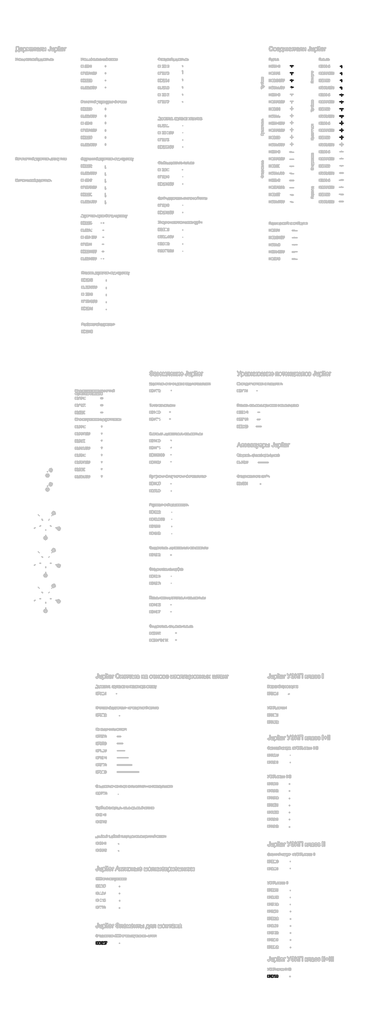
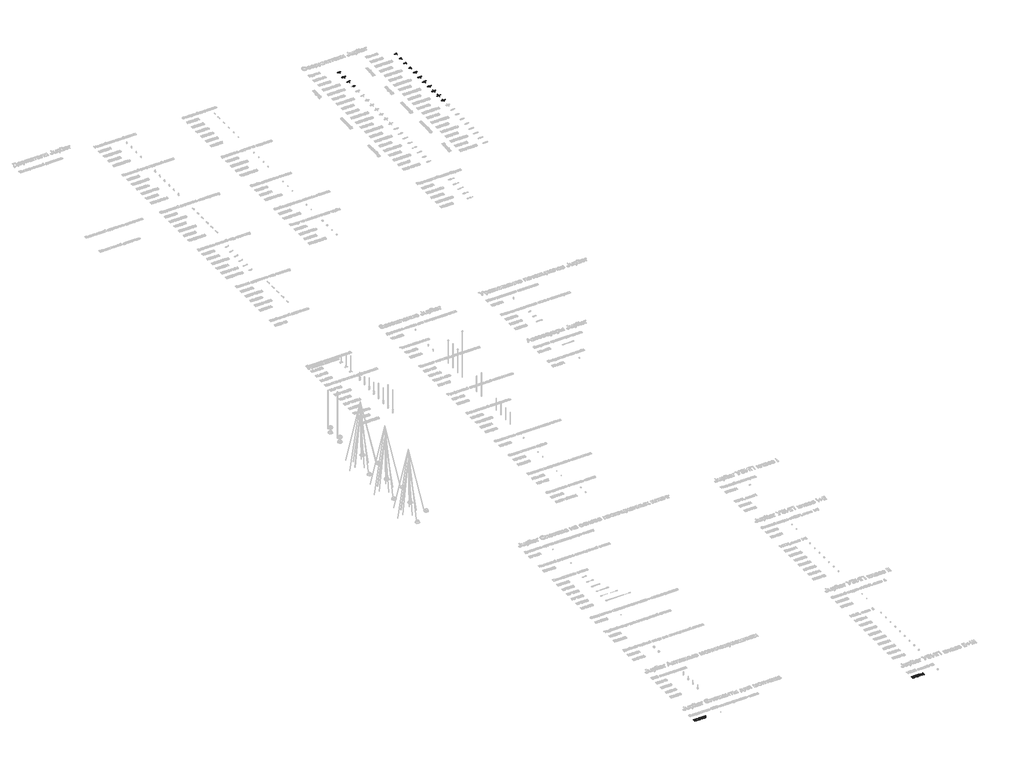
# One storey, part 6 of 124: 42 duct segments, 17 proxies, 11 duct fittings.
"""IFC4 building model written with IfcOpenShell, lengths in millimetres."""

from ifc_helpers import new_model, si_unit, point, frame, frame_2d, origin, origin_with_axes, place, context, project, spatial, polyline, circle_curve, trimmed, segment, composite_curve, outline, extrude, transform, mapped, element, save
from components import security_devices_68ae9aea, security_devices_21ef5ac7, security_devices_afe2594a, duct_fitting_43ad5567, duct_fitting_6c424e49, duct_fitting_1aa216ad, duct_fitting_7b14a912, duct_fitting_7ecd3d40

model = new_model("IFC4")

# Units and contexts
model_context = context("Model", 3, world=origin())
ifc_project = project(units=[si_unit("LENGTHUNIT", "METRE", prefix="MILLI")], contexts=[model_context])

# Site, building, storey
site = spatial("IfcSite", under=ifc_project)
building = spatial("IfcBuilding", under=site)
storey = spatial("IfcBuildingStorey", under=building, Name="Этаж 01", Elevation=0.0)

# Proxies
placement = place(None, origin())
security_devices_shape = security_devices_68ae9aea(model_context)
element("IfcBuildingElementProxy", 1, Name="КНС_СоединительПолосаПолоса_DKC : NG3105_Горячеоцинкованная сталь_80х70 мм", ObjectType="КНС_СоединительПолосаПолоса_DKC : NG3105_Горячеоцинкованная сталь_80х70 мм", at=placement, inside=storey, context=model_context, shape_type="MappedRepresentation", body=[
    mapped(security_devices_shape, transform((59863.3070748, -5351.033182, 0.0), x_axis=(0.0, 1.0, 0.0), y_axis=(-1.0, 0.0, 0.0), z_axis=(0.0, 0.0, 1.0))),
])
element("IfcBuildingElementProxy", 2, Name="КНС_СоединительПолосаПолоса_DKC : NG3105_Горячеоцинкованная сталь_80х70 мм", ObjectType="КНС_СоединительПолосаПолоса_DKC : NG3105_Горячеоцинкованная сталь_80х70 мм", at=placement, inside=storey, context=model_context, shape_type="MappedRepresentation", body=[
    mapped(security_devices_shape, transform((59863.3070748, -9351.033182, 0.0), x_axis=(1.0, 0.0, 0.0), y_axis=(0.0, 1.0, 0.0), z_axis=(0.0, 0.0, 1.0))),
])
element("IfcBuildingElementProxy", 3, Name="КНС_СоединительПолосаПолоса_DKC : NG3105_Горячеоцинкованная сталь_80х70 мм", ObjectType="КНС_СоединительПолосаПолоса_DKC : NG3105_Горячеоцинкованная сталь_80х70 мм", at=placement, inside=storey, context=model_context, shape_type="MappedRepresentation", body=[
    mapped(security_devices_shape, transform((59863.3070748, -13351.033182, 0.0), x_axis=(1.0, 0.0, 0.0), y_axis=(0.0, 1.0, 0.0), z_axis=(0.0, 0.0, 1.0))),
])
element("IfcBuildingElementProxy", 4, Name="КНС_СоединительПолосаПолоса_DKC : NG3105CU_Медь_80х70 мм", ObjectType="КНС_СоединительПолосаПолоса_DKC : NG3105CU_Медь_80х70 мм", at=placement, inside=storey, context=model_context, shape_type="MappedRepresentation", body=[
    mapped(security_devices_shape, transform((59863.3070748, -6351.033182, 0.0), x_axis=(0.0, 1.0, 0.0), y_axis=(-1.0, 0.0, 0.0), z_axis=(0.0, 0.0, 1.0))),
])
element("IfcBuildingElementProxy", 5, Name="КНС_СоединительПолосаПолоса_DKC : NG3105CU_Медь_80х70 мм", ObjectType="КНС_СоединительПолосаПолоса_DKC : NG3105CU_Медь_80х70 мм", at=placement, inside=storey, context=model_context, shape_type="MappedRepresentation", body=[
    mapped(security_devices_shape, transform((59863.3070748, -10351.033182, 0.0), x_axis=(1.0, 0.0, 0.0), y_axis=(0.0, 1.0, 0.0), z_axis=(0.0, 0.0, 1.0))),
])
element("IfcBuildingElementProxy", 6, Name="КНС_СоединительПолосаПолоса_DKC : NG3105CU_Медь_80х70 мм", ObjectType="КНС_СоединительПолосаПолоса_DKC : NG3105CU_Медь_80х70 мм", at=placement, inside=storey, context=model_context, shape_type="MappedRepresentation", body=[
    mapped(security_devices_shape, transform((59863.3070748, -14351.033182, 0.0), x_axis=(1.0, 0.0, 0.0), y_axis=(0.0, 1.0, 0.0), z_axis=(0.0, 0.0, 1.0))),
])
security_devices_2_shape = security_devices_21ef5ac7(model_context)
element("IfcBuildingElementProxy", 7, Name="КНС_СоединительПолосаПолоса_DKC : NG3106_Горячеоцинкованная сталь_100х100 мм", ObjectType="КНС_СоединительПолосаПолоса_DKC : NG3106_Горячеоцинкованная сталь_100х100 мм", at=placement, inside=storey, context=model_context, shape_type="MappedRepresentation", body=[
    mapped(security_devices_2_shape, transform((59863.3070748, -7351.033182, 0.0), x_axis=(0.0, 1.0, 0.0), y_axis=(-1.0, 0.0, 0.0), z_axis=(0.0, 0.0, 1.0))),
])
element("IfcBuildingElementProxy", 8, Name="КНС_СоединительПолосаПолоса_DKC : NG3106_Горячеоцинкованная сталь_100х100 мм", ObjectType="КНС_СоединительПолосаПолоса_DKC : NG3106_Горячеоцинкованная сталь_100х100 мм", at=placement, inside=storey, context=model_context, shape_type="MappedRepresentation", body=[
    mapped(security_devices_2_shape, transform((59863.3070748, -11351.033182, 0.0), x_axis=(1.0, 0.0, 0.0), y_axis=(0.0, 1.0, 0.0), z_axis=(0.0, 0.0, 1.0))),
])
element("IfcBuildingElementProxy", 9, Name="КНС_СоединительПолосаПолоса_DKC : NG3106_Горячеоцинкованная сталь_100х100 мм", ObjectType="КНС_СоединительПолосаПолоса_DKC : NG3106_Горячеоцинкованная сталь_100х100 мм", at=placement, inside=storey, context=model_context, shape_type="MappedRepresentation", body=[
    mapped(security_devices_2_shape, transform((59863.3070748, -15351.033182, 0.0), x_axis=(1.0, 0.0, 0.0), y_axis=(0.0, 1.0, 0.0), z_axis=(0.0, 0.0, 1.0))),
])
element("IfcBuildingElementProxy", 10, Name="КНС_СоединительПолосаПолоса_DKC : NG3106CU_Медь_100х100 мм", ObjectType="КНС_СоединительПолосаПолоса_DKC : NG3106CU_Медь_100х100 мм", at=placement, inside=storey, context=model_context, shape_type="MappedRepresentation", body=[
    mapped(security_devices_2_shape, transform((59863.3070748, -12351.033182, 0.0), x_axis=(1.0, 0.0, 0.0), y_axis=(0.0, 1.0, 0.0), z_axis=(0.0, 0.0, 1.0))),
])
element("IfcBuildingElementProxy", 11, Name="КНС_СоединительПолосаПолоса_DKC : NG3106CU_Медь_100х100 мм", ObjectType="КНС_СоединительПолосаПолоса_DKC : NG3106CU_Медь_100х100 мм", at=placement, inside=storey, context=model_context, shape_type="MappedRepresentation", body=[
    mapped(security_devices_2_shape, transform((59863.3070748, -8351.033182, 0.0), x_axis=(0.0, 1.0, 0.0), y_axis=(-1.0, 0.0, 0.0), z_axis=(0.0, 0.0, 1.0))),
])
security_devices_3_shape = security_devices_afe2594a(model_context)
element("IfcBuildingElementProxy", 12, Name="КНС_СоединительПрутокПруток_DKC : Горячеоцинкованная сталь", ObjectType="КНС_СоединительПрутокПруток_DKC : Горячеоцинкованная сталь", at=placement, inside=storey, context=model_context, shape_type="MappedRepresentation", body=[
    mapped(security_devices_3_shape, transform((52856.4464175, -5309.3160042, 0.0), x_axis=(1.0, 0.0, 0.0), y_axis=(0.0, 1.0, 0.0), z_axis=(0.0, 0.0, 1.0))),
])
element("IfcBuildingElementProxy", 13, Name="КНС_СоединительПрутокПруток_DKC : Горячеоцинкованная сталь", ObjectType="КНС_СоединительПрутокПруток_DKC : Горячеоцинкованная сталь", at=placement, inside=storey, context=model_context, shape_type="MappedRepresentation", body=[
    mapped(security_devices_3_shape, transform((52856.4464175, -6309.3160042, 0.0), x_axis=(1.0, 0.0, 0.0), y_axis=(0.0, 1.0, 0.0), z_axis=(0.0, 0.0, 1.0))),
])
element("IfcBuildingElementProxy", 14, Name="КНС_СоединительПрутокПруток_DKC : Медь", ObjectType="КНС_СоединительПрутокПруток_DKC : Медь", at=placement, inside=storey, context=model_context, shape_type="MappedRepresentation", body=[
    mapped(security_devices_3_shape, transform((52856.4464175, -7309.3160042, 0.0), x_axis=(1.0, 0.0, 0.0), y_axis=(0.0, 1.0, 0.0), z_axis=(0.0, 0.0, 1.0))),
])
element("IfcBuildingElementProxy", 15, Name="КНС_СоединительПрутокПруток_DKC : Медь", ObjectType="КНС_СоединительПрутокПруток_DKC : Медь", at=placement, inside=storey, context=model_context, shape_type="MappedRepresentation", body=[
    mapped(security_devices_3_shape, transform((52856.4464175, -8309.3160042, 0.0), x_axis=(1.0, 0.0, 0.0), y_axis=(0.0, 1.0, 0.0), z_axis=(0.0, 0.0, 1.0))),
])
element("IfcBuildingElementProxy", 16, Name="300", ObjectType="300", at=placement, inside=storey, context=model_context, shape_type="SweptSolid", body=[
    extrude(outline(polyline([(25399.8220677, -128548.8731539), (25399.8220677, -128247.5042234), (25440.1419344, -128247.5042234), (25597.5954283, -128486.2596383), (25597.5954283, -128247.5042234), (25635.2665446, -128247.5042234), (25635.2665446, -128548.8731539), (25594.9466779, -128548.8731539), (25437.493184, -128310.0441626), (25437.493184, -128548.8731539), (25399.8220677, -128548.8731539)])), origin_with_axes(), (0.0, 0.0, 1.0), 20.0),
    extrude(outline(polyline([(25842.4576843, -128431.1509154), (25842.4576843, -128393.4797991), (25964.8888123, -128393.4797991), (25964.8888123, -128506.125266), (25935.1363559, -128526.8186283), (25904.4458005, -128541.6626668), (25872.8907223, -128550.6021993), (25840.5446979, -128553.5820434), (25798.2842537, -128548.8455627), (25760.0889056, -128534.6361207), (25728.3590835, -128511.4503579), (25705.4952175, -128479.7849152), (25691.6720515, -128441.8010992), (25687.0643295, -128399.6602166), (25691.6536574, -128357.2158314), (25705.4216411, -128317.7328963), (25727.7980634, -128284.6143197), (25758.2127074, -128261.2630101), (25795.2584243, -128247.4122529), (25837.5280656, -128242.7953339), (25868.5589118, -128245.4716754), (25896.4627612, -128253.5007), (25919.9612236, -128266.3029934), (25937.7759092, -128283.2991416), (25950.9552817, -128305.3076819), (25960.5478047, -128333.1471519), (25925.8197444, -128342.932813), (25918.0666313, -128323.0763823), (25908.6396552, -128308.094388), (25896.1684556, -128296.8004108), (25879.282672, -128288.0080311), (25859.1503298, -128282.3518454), (25836.9394544, -128280.4664502), (25810.9393944, -128282.4989982), (25788.7101248, -128288.5966423), (25770.3344191, -128297.9960273), (25755.8950508, -128309.933798), (25736.5076697, -128338.9596874), (25727.6785018, -128367.3969657), (25724.7354458, -128398.1151123), (25728.27631, -128434.1399566), (25738.8989026, -128463.7820484), (25756.2813269, -128486.8298554), (25780.1016861, -128503.0718455), (25807.9779443, -128512.7011567), (25837.5280656, -128515.9109271), (25863.6200961, -128513.492103), (25889.0683331, -128506.2356306), (25911.1688439, -128496.2384374), (25927.217696, -128485.5974507), (25927.217696, -128431.1509154), (25842.4576843, -128431.1509154)])), origin_with_axes(), (0.0, 0.0, 1.0), 20.0),
    extrude(outline(polyline([(26205.0421787, -128327.5553456), (26167.3710624, -128332.2642351), (26161.3010095, -128313.5942239), (26153.097241, -128300.8471127), (26136.0091223, -128289.093283), (26115.3525483, -128285.1753397), (26097.8413653, -128287.4562081), (26081.360252, -128294.2988132), (26067.2059922, -128308.7105904), (26055.6453005, -128328.548627), (26047.8370051, -128356.6088262), (26044.9399344, -128395.6870911), (26060.0506874, -128378.0563465), (26078.1596786, -128365.6311321), (26098.2552326, -128358.2642951), (26119.3256739, -128355.8086828), (26137.425468, -128357.4871444), (26154.1273106, -128362.5225292), (26169.4312016, -128370.9148372), (26183.337141, -128382.6640685), (26194.8932342, -128397.0712471), (26203.1475865, -128413.4373974), (26208.1001978, -128431.7625192), (26209.7510683, -128452.0466128), (26206.6424654, -128479.0215601), (26197.3166568, -128504.0283387), (26182.5461947, -128525.2367357), (26163.1036313, -128540.8165382), (26139.8718833, -128550.3906671), (26113.7338675, -128553.5820434), (26091.276971, -128551.466722), (26070.9951767, -128545.1207575), (26052.8884848, -128534.5441502), (26036.9568951, -128519.7368999), (26023.9683614, -128500.0736072), (26014.6908374, -128474.9288729), (26009.1243229, -128444.3026968), (26007.2688181, -128408.1950789), (26009.3289573, -128367.7142639), (26015.5093748, -128333.165546), (26025.8100707, -128304.5489253), (26040.2310449, -128281.8644018), (26055.8614312, -128266.8318238), (26073.984218, -128256.094268), (26094.5994053, -128249.6517346), (26117.7069931, -128247.5042234), (26150.7611903, -128252.8201183), (26177.2302999, -128268.7678028), (26195.7715525, -128294.0964781), (26205.0421787, -128327.5553456)]), holes=[polyline([(26044.9399344, -128451.4580016), (26047.1196353, -128468.1506471), (26053.6587377, -128484.0891345), (26063.8122808, -128497.7927389), (26076.8353034, -128507.780735), (26092.5530617, -128513.8783791), (26110.7908116, -128515.9109271), (26135.6504374, -128511.6986783), (26155.1941684, -128499.0619317), (26167.8585061, -128479.196304), (26172.079952, -128453.2974115), (26167.9136884, -128428.4377857), (26155.4148976, -128409.4826659), (26135.5400728, -128397.4805158), (26109.2457072, -128393.4797991), (26084.4228696, -128397.4805158), (26063.665128, -128409.4826659), (26049.6212328, -128427.9779332), (26044.9399344, -128451.4580016)])]), origin_with_axes(), (0.0, 0.0, 1.0), 20.0),
    extrude(outline(polyline([(26435.7777661, -128327.5553456), (26398.1066498, -128332.2642351), (26392.0365969, -128313.5942239), (26383.8328284, -128300.8471127), (26366.7447097, -128289.093283), (26346.0881357, -128285.1753397), (26328.5769527, -128287.4562081), (26312.0958393, -128294.2988132), (26297.9415796, -128308.7105904), (26286.3808879, -128328.548627), (26278.5725925, -128356.6088262), (26275.6755218, -128395.6870911), (26290.7862748, -128378.0563465), (26308.895266, -128365.6311321), (26328.99082, -128358.2642951), (26350.0612612, -128355.8086828), (26368.1610554, -128357.4871444), (26384.862898, -128362.5225292), (26400.166789, -128370.9148372), (26414.0727284, -128382.6640685), (26425.6288216, -128397.0712471), (26433.8831738, -128413.4373974), (26438.8357852, -128431.7625192), (26440.4866556, -128452.0466128), (26437.3780528, -128479.0215601), (26428.0522442, -128504.0283387), (26413.2817821, -128525.2367357), (26393.8392187, -128540.8165382), (26370.6074707, -128550.3906671), (26344.4694549, -128553.5820434), (26322.0125584, -128551.466722), (26301.7307641, -128545.1207575), (26283.6240722, -128534.5441502), (26267.6924825, -128519.7368999), (26254.7039488, -128500.0736072), (26245.4264248, -128474.9288729), (26239.8599103, -128444.3026968), (26238.0044055, -128408.1950789), (26240.0645447, -128367.7142639), (26246.2449622, -128333.165546), (26256.5456581, -128304.5489253), (26270.9666323, -128281.8644018), (26286.5970185, -128266.8318238), (26304.7198053, -128256.094268), (26325.3349926, -128249.6517346), (26348.4425805, -128247.5042234), (26381.4967777, -128252.8201183), (26407.9658873, -128268.7678028), (26426.5071398, -128294.0964781), (26435.7777661, -128327.5553456)]), holes=[polyline([(26275.6755218, -128451.4580016), (26277.8552226, -128468.1506471), (26284.3943251, -128484.0891345), (26294.5478682, -128497.7927389), (26307.5708908, -128507.780735), (26323.288649, -128513.8783791), (26341.5263989, -128515.9109271), (26366.3860248, -128511.6986783), (26385.9297558, -128499.0619317), (26398.5940934, -128479.196304), (26402.8155393, -128453.2974115), (26398.6492757, -128428.4377857), (26386.150485, -128409.4826659), (26366.2756602, -128397.4805158), (26339.9812946, -128393.4797991), (26315.1584569, -128397.4805158), (26294.4007154, -128409.4826659), (26280.3568202, -128427.9779332), (26275.6755218, -128451.4580016)])]), origin_with_axes(), (0.0, 0.0, 1.0), 20.0),
    extrude(outline(polyline([(26473.4488824, -128400.6167098), (26476.2171944, -128352.3781832), (26484.5221305, -128313.9069236), (26498.2809171, -128284.6143197), (26517.4107808, -128263.9117604), (26542.0496775, -128251.6061077), (26572.3355627, -128247.5042234), (26595.5489166, -128249.9322446), (26616.3342493, -128257.2163081), (26633.7166736, -128269.0713054), (26646.7213021, -128285.2121279), (26656.5437514, -128305.50082), (26664.3796379, -128329.7994258), (26669.5115917, -128360.6555281), (26671.222243, -128400.6167098), (26668.4815222, -128448.579325), (26660.2593596, -128486.9586141), (26646.5833464, -128516.2788091), (26627.4810738, -128537.0641418), (26602.7869949, -128549.452568), (26572.3355627, -128553.5820434), (26551.5870182, -128551.7886187), (26533.1929184, -128546.4083445), (26517.1532634, -128537.4412209), (26503.4680532, -128524.8872478), (26490.334666, -128502.1935272), (26480.9536751, -128473.9171974), (26475.3250806, -128440.0582582), (26473.4488824, -128400.6167098)]), holes=[polyline([(26511.1199987, -128400.5431334), (26515.5345827, -128459.7997258), (26521.0528126, -128480.0677245), (26528.7783345, -128494.0955248), (26548.4968094, -128510.4570765), (26572.3355627, -128515.9109271), (26596.174316, -128510.4386824), (26615.892791, -128494.0219484), (26623.6183128, -128479.9711555), (26629.1365428, -128459.7077553), (26633.5511267, -128400.5431334), (26629.2836956, -128342.6201133), (26623.9494066, -128322.4187932), (26616.4814021, -128308.0575998), (26596.7997154, -128290.8959048), (26571.8941043, -128285.1753397), (26548.3128684, -128290.2153231), (26529.3669457, -128305.3352731), (26521.3839064, -128320.9702579), (26515.6817355, -128342.0498962), (26511.1199987, -128400.5431334)])]), origin_with_axes(), (0.0, 0.0, 1.0), 20.0),
    extrude(outline(polyline([(26704.1844698, -128289.8842293), (26704.1844698, -128252.213113), (26901.9578304, -128252.213113), (26901.9578304, -128282.6737422), (26873.7688725, -128318.3490987), (26845.8558261, -128363.7181457), (26821.2353236, -128414.6422109), (26802.9239973, -128466.9826218), (26793.9476766, -128506.1436601), (26788.9444815, -128548.8731539), (26751.2733652, -128548.8731539), (26755.3476583, -128510.0432093), (26766.2461624, -128463.892413), (26783.6745719, -128414.9733047), (26807.3385812, -128367.8384241), (26834.9665191, -128325.228492), (26864.2867141, -128289.8842293), (26704.1844698, -128289.8842293)])), origin_with_axes(), (0.0, 0.0, 1.0), 20.0),
])
element("IfcBuildingElementProxy", 17, Name="300", ObjectType="300", at=placement, inside=storey, context=model_context, shape_type="SweptSolid", body=[
    extrude(outline(polyline([(49499.8220677, -133229.1942356), (49499.8220677, -132927.8253052), (49540.1419344, -132927.8253052), (49697.5954283, -133166.58072), (49697.5954283, -132927.8253052), (49735.2665446, -132927.8253052), (49735.2665446, -133229.1942356), (49694.9466779, -133229.1942356), (49537.493184, -132990.3652443), (49537.493184, -133229.1942356), (49499.8220677, -133229.1942356)])), origin_with_axes(), (0.0, 0.0, 1.0), 20.0),
    extrude(outline(polyline([(49768.2287714, -133229.1942356), (49884.4059055, -133064.971713), (49787.0643295, -132927.8253052), (49832.2402385, -132927.8253052), (49887.0546558, -133005.0069477), (49905.522332, -133035.099695), (49927.1537933, -133004.491913), (49981.3795994, -132927.8253052), (50027.217696, -132927.8253052), (49929.8761201, -133065.4131714), (50046.0532541, -133229.1942356), (50000.8773451, -133229.1942356), (49923.4749733, -133120.0068594), (49907.361742, -133097.3453285), (49889.6298298, -133122.2141514), (49814.066868, -133229.1942356), (49768.2287714, -133229.1942356)])), origin_with_axes(), (0.0, 0.0, 1.0), 20.0),
    extrude(outline(polyline([(50069.5977018, -133149.1431135), (50107.2688181, -133144.4342239), (50115.7025129, -133168.1074303), (50128.0541509, -133184.091903), (50144.9307374, -133193.1969824), (50166.9392777, -133196.2320088), (50192.7645938, -133192.0565482), (50212.7037979, -133179.5301663), (50225.4509091, -133160.8417609), (50229.6999461, -133138.18023), (50225.4876973, -133116.6683303), (50212.8509507, -133099.2215267), (50193.721087, -133087.660835), (50170.0294865, -133083.8072711), (50143.6155593, -133087.9275495), (50147.809414, -133050.2564332), (50153.8426787, -133050.6978915), (50176.4122391, -133047.9939589), (50196.5905666, -133039.8821609), (50210.8275998, -133026.1601625), (50215.5732775, -133006.6256285), (50212.1335809, -132990.3560473), (50201.8144909, -132977.1582807), (50186.0691415, -132968.4118863), (50166.3506666, -132965.4964215), (50146.5954034, -132968.4394774), (50130.4453838, -132977.2686453), (50118.6547659, -132991.9839251), (50111.9777077, -133012.5853168), (50074.3065914, -133007.8764273), (50085.3982335, -132974.0496779), (50105.1351026, -132948.7945789), (50132.137641, -132933.0676236), (50165.0262914, -132927.8253052), (50188.7086948, -132930.4096762), (50210.4597178, -132938.1627892), (50228.7986352, -132950.3948656), (50242.2447222, -132966.4161265), (50250.4944759, -132984.8746056), (50253.2443938, -133004.4183366), (50250.6324316, -133022.6284953), (50242.7965452, -133039.1463969), (50229.8470989, -133053.2178832), (50211.8944576, -133064.0887962), (50235.4756934, -133073.6169398), (50252.9500882, -133089.8405358), (50263.7658189, -133111.8766673), (50267.3710624, -133138.8424176), (50265.5684407, -133157.9538872), (50260.1605753, -133175.5570407), (50251.1474664, -133191.651878), (50238.529114, -133206.2383991), (50223.1562451, -133218.3417167), (50205.8795869, -133226.9869436), (50186.6991394, -133232.1740798), (50165.6149026, -133233.9031251), (50146.5586152, -133232.4269986), (50129.194585, -133227.9986191), (50113.522812, -133220.6179866), (50099.5432962, -133210.2851011), (50087.8216562, -133197.6069678), (50078.9235104, -133183.1905921), (50072.848859, -133167.035974), (50069.5977018, -133149.1431135)])), origin_with_axes(), (0.0, 0.0, 1.0), 20.0),
    extrude(outline(polyline([(50300.3332892, -133080.9377915), (50303.1016012, -133032.6992649), (50311.4065373, -132994.2280053), (50325.1653239, -132964.9354014), (50344.2951876, -132944.2328421), (50368.9340842, -132931.9271894), (50399.2199695, -132927.8253052), (50422.4333234, -132930.2533263), (50443.2186561, -132937.5373898), (50460.6010804, -132949.3923871), (50473.6057089, -132965.5332097), (50483.4281582, -132985.8219017), (50491.2640447, -133010.1205075), (50496.3959985, -133040.9766098), (50498.1066498, -133080.9377915), (50495.3659289, -133128.9004067), (50487.1437663, -133167.2796958), (50473.4677532, -133196.5998908), (50454.3654806, -133217.3852236), (50429.6714017, -133229.7736497), (50399.2199695, -133233.9031251), (50378.471425, -133232.1097004), (50360.0773252, -133226.7294262), (50344.0376702, -133217.7623026), (50330.35246, -133205.2083295), (50317.2190728, -133182.5146089), (50307.8380819, -133154.2382791), (50302.2094874, -133120.37934), (50300.3332892, -133080.9377915)]), holes=[polyline([(50338.0044055, -133080.8642152), (50342.4189894, -133140.1208075), (50347.9372194, -133160.3888062), (50355.6627413, -133174.4166065), (50375.3812162, -133190.7781583), (50399.2199695, -133196.2320088), (50423.0587228, -133190.7597642), (50442.7771977, -133174.3430301), (50450.5027196, -133160.2922372), (50456.0209496, -133140.028837), (50460.4355335, -133080.8642152), (50456.1681024, -133022.941195), (50450.8338134, -133002.739875), (50443.3658089, -132988.3786816), (50423.6841222, -132971.2169865), (50398.7785111, -132965.4964215), (50375.1972752, -132970.5364048), (50356.2513525, -132985.6563548), (50348.2683132, -133001.2913396), (50342.5661422, -133022.3709779), (50338.0044055, -133080.8642152)])]), origin_with_axes(), (0.0, 0.0, 1.0), 20.0),
    extrude(outline(polyline([(50672.3355627, -133229.1942356), (50634.6644464, -133229.1942356), (50634.6644464, -132994.3383699), (50598.9798929, -133019.7590158), (50559.3222138, -133038.7785149), (50559.3222138, -133003.1675378), (50588.9091233, -132987.0727005), (50614.5413013, -132967.9244426), (50634.7472199, -132947.5621742), (50648.055351, -132927.8253052), (50672.3355627, -132927.8253052), (50672.3355627, -133229.1942356)])), origin_with_axes(), (0.0, 0.0, 1.0), 20.0),
    extrude(outline(polyline([(50903.0711501, -133229.1942356), (50865.4000338, -133229.1942356), (50865.4000338, -132994.3383699), (50829.7154803, -133019.7590158), (50790.0578012, -133038.7785149), (50790.0578012, -133003.1675378), (50819.6447106, -132987.0727005), (50845.2768887, -132967.9244426), (50865.4828072, -132947.5621742), (50878.7909384, -132927.8253052), (50903.0711501, -132927.8253052), (50903.0711501, -133229.1942356)])), origin_with_axes(), (0.0, 0.0, 1.0), 20.0),
])

# Duct fittings
duct_fitting_shape = duct_fitting_43ad5567(model_context)
element("IfcDuctFitting", 18, ObjectType="КНС_Крестовина_Полоса_Неспецифицируемое_DKC : NG3105_Горячеоцинкованная сталь_80х70 мм", at=placement, inside=storey, context=model_context, shape_type="MappedRepresentation", body=[
    mapped(duct_fitting_shape, transform((59872.0570748, -13351.033182, 0.0), x_axis=(1.0, 0.0, 0.0), y_axis=(0.0, 1.0, 0.0), z_axis=(0.0, 0.0, 1.0))),
])
element("IfcDuctFitting", 19, ObjectType="КНС_Крестовина_Полоса_Неспецифицируемое_DKC : NG3105CU_Медь_80х70 мм", at=placement, inside=storey, context=model_context, shape_type="MappedRepresentation", body=[
    mapped(duct_fitting_shape, transform((59872.0570748, -14351.033182, 0.0), x_axis=(1.0, 0.0, 0.0), y_axis=(0.0, 1.0, 0.0), z_axis=(0.0, 0.0, 1.0))),
])
duct_fitting_2_shape = duct_fitting_6c424e49(model_context)
element("IfcDuctFitting", 20, ObjectType="КНС_Крестовина_Полоса_Неспецифицируемое_DKC : NG3106_Горячеоцинкованная сталь_100х100 мм", at=placement, inside=storey, context=model_context, shape_type="MappedRepresentation", body=[
    mapped(duct_fitting_2_shape, transform((59872.0570748, -15351.033182, 0.0), x_axis=(1.0, 0.0, 0.0), y_axis=(0.0, 1.0, 0.0), z_axis=(0.0, 0.0, 1.0))),
])
duct_fitting_3_shape = duct_fitting_1aa216ad(model_context)
element("IfcDuctFitting", 21, ObjectType="КНС_Тройник_Полоса_Неспецифицируемое_DKC : NG3105_Горячеоцинкованная сталь_80х70 мм", at=placement, inside=storey, context=model_context, shape_type="MappedRepresentation", body=[
    mapped(duct_fitting_3_shape, transform((59863.3070748, -9351.033182, 0.0), x_axis=(1.0, 0.0, 0.0), y_axis=(0.0, 1.0, 0.0), z_axis=(0.0, 0.0, 1.0))),
])
element("IfcDuctFitting", 22, ObjectType="КНС_Тройник_Полоса_Неспецифицируемое_DKC : NG3105CU_Медь_80х70 мм", at=placement, inside=storey, context=model_context, shape_type="MappedRepresentation", body=[
    mapped(duct_fitting_3_shape, transform((59863.3070748, -10351.033182, 0.0), x_axis=(1.0, 0.0, 0.0), y_axis=(0.0, 1.0, 0.0), z_axis=(0.0, 0.0, 1.0))),
])
element("IfcDuctFitting", 23, ObjectType="КНС_Тройник_Полоса_Неспецифицируемое_DKC : NG3106_Горячеоцинкованная сталь_100х100 мм", at=placement, inside=storey, context=model_context, shape_type="MappedRepresentation", body=[
    mapped(duct_fitting_3_shape, transform((59863.3070748, -11351.033182, 0.0), x_axis=(1.0, 0.0, 0.0), y_axis=(0.0, 1.0, 0.0), z_axis=(0.0, 0.0, 1.0))),
])
element("IfcDuctFitting", 24, ObjectType="КНС_Тройник_Полоса_Неспецифицируемое_DKC : NG3106CU_Медь_100х100 мм", at=placement, inside=storey, context=model_context, shape_type="MappedRepresentation", body=[
    mapped(duct_fitting_3_shape, transform((59863.3070748, -12351.033182, 0.0), x_axis=(1.0, 0.0, 0.0), y_axis=(0.0, 1.0, 0.0), z_axis=(0.0, 0.0, 1.0))),
])
duct_fitting_4_shape = duct_fitting_7b14a912(model_context)
element("IfcDuctFitting", 25, ObjectType="КНС_Тройник_Пруток_Неспецифицируемое_DKC : NG3104_NG3109_Горячеоцинкованная сталь", at=placement, inside=storey, context=model_context, shape_type="MappedRepresentation", body=[
    mapped(duct_fitting_4_shape, transform((52856.4464175, -6309.3160042, 0.0), x_axis=(1.0, 0.0, 0.0), y_axis=(0.0, 1.0, 0.0), z_axis=(0.0, 0.0, 1.0))),
])
duct_fitting_5_shape = duct_fitting_7ecd3d40(model_context)
element("IfcDuctFitting", 26, ObjectType="КНС_Тройник_Пруток_Неспецифицируемое_DKC : NG3104CU_NG3109CU_Медь", at=placement, inside=storey, context=model_context, shape_type="MappedRepresentation", body=[
    mapped(duct_fitting_5_shape, transform((52856.4464175, -7309.3160042, 0.0), x_axis=(1.0, 0.0, 0.0), y_axis=(0.0, 1.0, 0.0), z_axis=(0.0, 0.0, 1.0))),
])
element("IfcDuctFitting", 27, ObjectType="КНС_Тройник_Пруток_Неспецифицируемое_DKC : NG3104CU_NG3109CU_Медь", at=placement, inside=storey, context=model_context, shape_type="MappedRepresentation", body=[
    mapped(duct_fitting_4_shape, transform((52856.4464175, -8309.3160042, 0.0), x_axis=(1.0, 0.0, 0.0), y_axis=(0.0, 1.0, 0.0), z_axis=(0.0, 0.0, 1.0))),
])
element("IfcDuctFitting", 28, ObjectType="КНС_Тройник_Пруток_Неспецифицируемое_DKC : NG3104_NG3109_Горячеоцинкованная сталь", at=placement, inside=storey, context=model_context, shape_type="MappedRepresentation", body=[
    mapped(duct_fitting_5_shape, transform((52856.4464175, -5309.3160042, 0.0), x_axis=(1.0, 0.0, 0.0), y_axis=(0.0, 1.0, 0.0), z_axis=(0.0, 0.0, 1.0))),
])

# Duct segments
element("IfcDuctSegment", 29, ObjectType="КНС_Полоса_Горячеоцинкованная_25х4/40х4/40x5/50х5мм_DKC", at=placement, inside=storey, context=model_context, shape_type="SweptSolid", body=[
    extrude(outline(polyline([(59640.8070748, -5363.533182), (59640.8070748, -5338.533182), (59840.8070748, -5338.533182), (59840.8070748, -5363.533182), (59640.8070748, -5363.533182)])), frame((0.0, 0.0, -2.0), z_axis=(0.0, 0.0, 1.0), x_axis=(1.0, 0.0, 0.0)), (0.0, 0.0, 1.0), 4.0),
])
element("IfcDuctSegment", 30, ObjectType="КНС_Полоса_Горячеоцинкованная_25х4/40х4/40x5/50х5мм_DKC", at=placement, inside=storey, context=model_context, shape_type="SweptSolid", body=[
    extrude(outline(polyline([(59850.8070748, -5373.533182), (59875.8070748, -5373.533182), (59875.8070748, -5573.533182), (59850.8070748, -5573.533182), (59850.8070748, -5373.533182)])), frame((0.0, 0.0, -2.0), z_axis=(0.0, 0.0, 1.0), x_axis=(1.0, 0.0, 0.0)), (0.0, 0.0, 1.0), 4.0),
])
element("IfcDuctSegment", 31, ObjectType="КНС_Полоса_Горячеоцинкованная_25х4/40х4/40x5/50х5мм_DKC", at=placement, inside=storey, context=model_context, shape_type="SweptSolid", body=[
    extrude(outline(polyline([(59640.8070748, -6363.533182), (59640.8070748, -6338.533182), (59840.8070748, -6338.533182), (59840.8070748, -6363.533182), (59640.8070748, -6363.533182)])), frame((0.0, 0.0, -2.0), z_axis=(0.0, 0.0, 1.0), x_axis=(1.0, 0.0, 0.0)), (0.0, 0.0, 1.0), 4.0),
])
element("IfcDuctSegment", 32, ObjectType="КНС_Полоса_Горячеоцинкованная_25х4/40х4/40x5/50х5мм_DKC", at=placement, inside=storey, context=model_context, shape_type="SweptSolid", body=[
    extrude(outline(polyline([(59850.8070748, -6373.533182), (59875.8070748, -6373.533182), (59875.8070748, -6573.533182), (59850.8070748, -6573.533182), (59850.8070748, -6373.533182)])), frame((0.0, 0.0, -2.0), z_axis=(0.0, 0.0, 1.0), x_axis=(1.0, 0.0, 0.0)), (0.0, 0.0, 1.0), 4.0),
])
element("IfcDuctSegment", 33, ObjectType="КНС_Полоса_Горячеоцинкованная_25х4/40х4/40x5/50х5мм_DKC", at=placement, inside=storey, context=model_context, shape_type="SweptSolid", body=[
    extrude(outline(polyline([(59640.8070748, -7363.533182), (59640.8070748, -7338.533182), (59840.8070748, -7338.533182), (59840.8070748, -7363.533182), (59640.8070748, -7363.533182)])), frame((0.0, 0.0, -2.0), z_axis=(0.0, 0.0, 1.0), x_axis=(1.0, 0.0, 0.0)), (0.0, 0.0, 1.0), 4.0),
])
element("IfcDuctSegment", 34, ObjectType="КНС_Полоса_Горячеоцинкованная_25х4/40х4/40x5/50х5мм_DKC", at=placement, inside=storey, context=model_context, shape_type="SweptSolid", body=[
    extrude(outline(polyline([(59850.8070748, -7373.533182), (59875.8070748, -7373.533182), (59875.8070748, -7573.533182), (59850.8070748, -7573.533182), (59850.8070748, -7373.533182)])), frame((0.0, 0.0, -2.0), z_axis=(0.0, 0.0, 1.0), x_axis=(1.0, 0.0, 0.0)), (0.0, 0.0, 1.0), 4.0),
])
element("IfcDuctSegment", 35, ObjectType="КНС_Полоса_Горячеоцинкованная_25х4/40х4/40x5/50х5мм_DKC", at=placement, inside=storey, context=model_context, shape_type="SweptSolid", body=[
    extrude(outline(polyline([(59640.8070748, -8363.533182), (59640.8070748, -8338.533182), (59840.8070748, -8338.533182), (59840.8070748, -8363.533182), (59640.8070748, -8363.533182)])), frame((0.0, 0.0, -2.0), z_axis=(0.0, 0.0, 1.0), x_axis=(1.0, 0.0, 0.0)), (0.0, 0.0, 1.0), 4.0),
])
element("IfcDuctSegment", 36, ObjectType="КНС_Полоса_Горячеоцинкованная_25х4/40х4/40x5/50х5мм_DKC", at=placement, inside=storey, context=model_context, shape_type="SweptSolid", body=[
    extrude(outline(polyline([(59850.8070748, -8373.533182), (59875.8070748, -8373.533182), (59875.8070748, -8573.533182), (59850.8070748, -8573.533182), (59850.8070748, -8373.533182)])), frame((0.0, 0.0, -2.0), z_axis=(0.0, 0.0, 1.0), x_axis=(1.0, 0.0, 0.0)), (0.0, 0.0, 1.0), 4.0),
])
element("IfcDuctSegment", 37, ObjectType="КНС_Полоса_Горячеоцинкованная_25х4/40х4/40x5/50х5мм_DKC", at=placement, inside=storey, context=model_context, shape_type="SweptSolid", body=[
    extrude(outline(polyline([(59823.3070748, -9338.533182), (59823.3070748, -9363.533182), (59623.3070748, -9363.533182), (59623.3070748, -9338.533182), (59823.3070748, -9338.533182)])), frame((0.0, 0.0, -2.0), z_axis=(0.0, 0.0, 1.0), x_axis=(1.0, 0.0, 0.0)), (0.0, 0.0, 1.0), 4.0),
])
element("IfcDuctSegment", 38, ObjectType="КНС_Полоса_Горячеоцинкованная_25х4/40х4/40x5/50х5мм_DKC", at=placement, inside=storey, context=model_context, shape_type="SweptSolid", body=[
    extrude(outline(polyline([(59850.8070748, -9386.033182), (59875.8070748, -9386.033182), (59875.8070748, -9586.033182), (59850.8070748, -9586.033182), (59850.8070748, -9386.033182)])), frame((0.0, 0.0, -2.0), z_axis=(0.0, 0.0, 1.0), x_axis=(1.0, 0.0, 0.0)), (0.0, 0.0, 1.0), 4.0),
])
element("IfcDuctSegment", 39, ObjectType="КНС_Полоса_Горячеоцинкованная_25х4/40х4/40x5/50х5мм_DKC", at=placement, inside=storey, context=model_context, shape_type="SweptSolid", body=[
    extrude(outline(polyline([(59850.8070748, -10386.033182), (59875.8070748, -10386.033182), (59875.8070748, -10586.033182), (59850.8070748, -10586.033182), (59850.8070748, -10386.033182)])), frame((0.0, 0.0, -2.0), z_axis=(0.0, 0.0, 1.0), x_axis=(1.0, 0.0, 0.0)), (0.0, 0.0, 1.0), 4.0),
])
element("IfcDuctSegment", 40, ObjectType="КНС_Полоса_Горячеоцинкованная_25х4/40х4/40x5/50х5мм_DKC", at=placement, inside=storey, context=model_context, shape_type="SweptSolid", body=[
    extrude(outline(polyline([(59903.3070748, -10363.533182), (59903.3070748, -10338.533182), (60103.3070748, -10338.533182), (60103.3070748, -10363.533182), (59903.3070748, -10363.533182)])), frame((0.0, 0.0, -2.0), z_axis=(0.0, 0.0, 1.0), x_axis=(1.0, 0.0, 0.0)), (0.0, 0.0, 1.0), 4.0),
])
element("IfcDuctSegment", 41, ObjectType="КНС_Полоса_Горячеоцинкованная_25х4/40х4/40x5/50х5мм_DKC", at=placement, inside=storey, context=model_context, shape_type="SweptSolid", body=[
    extrude(outline(polyline([(59850.8070748, -11386.033182), (59875.8070748, -11386.033182), (59875.8070748, -11586.033182), (59850.8070748, -11586.033182), (59850.8070748, -11386.033182)])), frame((0.0, 0.0, -2.0), z_axis=(0.0, 0.0, 1.0), x_axis=(1.0, 0.0, 0.0)), (0.0, 0.0, 1.0), 4.0),
])
element("IfcDuctSegment", 42, ObjectType="КНС_Полоса_Горячеоцинкованная_25х4/40х4/40x5/50х5мм_DKC", at=placement, inside=storey, context=model_context, shape_type="SweptSolid", body=[
    extrude(outline(polyline([(59903.3070748, -11363.533182), (59903.3070748, -11338.533182), (60103.3070748, -11338.533182), (60103.3070748, -11363.533182), (59903.3070748, -11363.533182)])), frame((0.0, 0.0, -2.0), z_axis=(0.0, 0.0, 1.0), x_axis=(1.0, 0.0, 0.0)), (0.0, 0.0, 1.0), 4.0),
])
element("IfcDuctSegment", 43, ObjectType="КНС_Полоса_Горячеоцинкованная_25х4/40х4/40x5/50х5мм_DKC", at=placement, inside=storey, context=model_context, shape_type="SweptSolid", body=[
    extrude(outline(polyline([(59850.8070748, -12386.033182), (59875.8070748, -12386.033182), (59875.8070748, -12586.033182), (59850.8070748, -12586.033182), (59850.8070748, -12386.033182)])), frame((0.0, 0.0, -2.0), z_axis=(0.0, 0.0, 1.0), x_axis=(1.0, 0.0, 0.0)), (0.0, 0.0, 1.0), 4.0),
])
element("IfcDuctSegment", 44, ObjectType="КНС_Полоса_Горячеоцинкованная_25х4/40х4/40x5/50х5мм_DKC", at=placement, inside=storey, context=model_context, shape_type="SweptSolid", body=[
    extrude(outline(polyline([(59903.3070748, -12363.533182), (59903.3070748, -12338.533182), (60103.3070748, -12338.533182), (60103.3070748, -12363.533182), (59903.3070748, -12363.533182)])), frame((0.0, 0.0, -2.0), z_axis=(0.0, 0.0, 1.0), x_axis=(1.0, 0.0, 0.0)), (0.0, 0.0, 1.0), 4.0),
])
element("IfcDuctSegment", 45, ObjectType="КНС_Полоса_Горячеоцинкованная_25х4/40х4/40x5/50х5мм_DKC", at=placement, inside=storey, context=model_context, shape_type="SweptSolid", body=[
    extrude(outline(polyline([(60103.3070748, -9338.533182), (60103.3070748, -9363.533182), (59903.3070748, -9363.533182), (59903.3070748, -9338.533182), (60103.3070748, -9338.533182)])), frame((0.0, 0.0, -2.0), z_axis=(0.0, 0.0, 1.0), x_axis=(1.0, 0.0, 0.0)), (0.0, 0.0, 1.0), 4.0),
])
element("IfcDuctSegment", 46, ObjectType="КНС_Полоса_Горячеоцинкованная_25х4/40х4/40x5/50х5мм_DKC", at=placement, inside=storey, context=model_context, shape_type="SweptSolid", body=[
    extrude(outline(polyline([(59623.3070748, -10363.533182), (59623.3070748, -10338.533182), (59823.3070748, -10338.533182), (59823.3070748, -10363.533182), (59623.3070748, -10363.533182)])), frame((0.0, 0.0, -2.0), z_axis=(0.0, 0.0, 1.0), x_axis=(1.0, 0.0, 0.0)), (0.0, 0.0, 1.0), 4.0),
])
element("IfcDuctSegment", 47, ObjectType="КНС_Полоса_Горячеоцинкованная_25х4/40х4/40x5/50х5мм_DKC", at=placement, inside=storey, context=model_context, shape_type="SweptSolid", body=[
    extrude(outline(polyline([(59623.3070748, -11363.533182), (59623.3070748, -11338.533182), (59823.3070748, -11338.533182), (59823.3070748, -11363.533182), (59623.3070748, -11363.533182)])), frame((0.0, 0.0, -2.0), z_axis=(0.0, 0.0, 1.0), x_axis=(1.0, 0.0, 0.0)), (0.0, 0.0, 1.0), 4.0),
])
element("IfcDuctSegment", 48, ObjectType="КНС_Полоса_Горячеоцинкованная_25х4/40х4/40x5/50х5мм_DKC", at=placement, inside=storey, context=model_context, shape_type="SweptSolid", body=[
    extrude(outline(polyline([(59623.3070748, -12363.533182), (59623.3070748, -12338.533182), (59823.3070748, -12338.533182), (59823.3070748, -12363.533182), (59623.3070748, -12363.533182)])), frame((0.0, 0.0, -2.0), z_axis=(0.0, 0.0, 1.0), x_axis=(1.0, 0.0, 0.0)), (0.0, 0.0, 1.0), 4.0),
])
element("IfcDuctSegment", 49, ObjectType="КНС_Полоса_Горячеоцинкованная_25х4/40х4/40x5/50х5мм_DKC", at=placement, inside=storey, context=model_context, shape_type="SweptSolid", body=[
    extrude(outline(polyline([(59903.3070748, -13363.533182), (59903.3070748, -13338.533182), (60103.3070748, -13338.533182), (60103.3070748, -13363.533182), (59903.3070748, -13363.533182)])), frame((0.0, 0.0, -2.0), z_axis=(0.0, 0.0, 1.0), x_axis=(1.0, 0.0, 0.0)), (0.0, 0.0, 1.0), 4.0),
])
element("IfcDuctSegment", 50, ObjectType="КНС_Полоса_Горячеоцинкованная_25х4/40х4/40x5/50х5мм_DKC", at=placement, inside=storey, context=model_context, shape_type="SweptSolid", body=[
    extrude(outline(polyline([(59875.8070748, -13316.033182), (59850.8070748, -13316.033182), (59850.8070748, -13116.033182), (59875.8070748, -13116.033182), (59875.8070748, -13316.033182)])), frame((0.0, 0.0, -2.0), z_axis=(0.0, 0.0, 1.0), x_axis=(1.0, 0.0, 0.0)), (0.0, 0.0, 1.0), 4.0),
])
element("IfcDuctSegment", 51, ObjectType="КНС_Полоса_Горячеоцинкованная_25х4/40х4/40x5/50х5мм_DKC", at=placement, inside=storey, context=model_context, shape_type="SweptSolid", body=[
    extrude(outline(polyline([(59623.3070748, -13363.533182), (59623.3070748, -13338.533182), (59823.3070748, -13338.533182), (59823.3070748, -13363.533182), (59623.3070748, -13363.533182)])), frame((0.0, 0.0, -2.0), z_axis=(0.0, 0.0, 1.0), x_axis=(1.0, 0.0, 0.0)), (0.0, 0.0, 1.0), 4.0),
])
element("IfcDuctSegment", 52, ObjectType="КНС_Полоса_Горячеоцинкованная_25х4/40х4/40x5/50х5мм_DKC", at=placement, inside=storey, context=model_context, shape_type="SweptSolid", body=[
    extrude(outline(polyline([(59875.8070748, -13586.033182), (59850.8070748, -13586.033182), (59850.8070748, -13386.033182), (59875.8070748, -13386.033182), (59875.8070748, -13586.033182)])), frame((0.0, 0.0, -2.0), z_axis=(0.0, 0.0, 1.0), x_axis=(1.0, 0.0, 0.0)), (0.0, 0.0, 1.0), 4.0),
])
element("IfcDuctSegment", 53, ObjectType="КНС_Полоса_Горячеоцинкованная_25х4/40х4/40x5/50х5мм_DKC", at=placement, inside=storey, context=model_context, shape_type="SweptSolid", body=[
    extrude(outline(polyline([(59903.3070748, -14363.533182), (59903.3070748, -14338.533182), (60103.3070748, -14338.533182), (60103.3070748, -14363.533182), (59903.3070748, -14363.533182)])), frame((0.0, 0.0, -2.0), z_axis=(0.0, 0.0, 1.0), x_axis=(1.0, 0.0, 0.0)), (0.0, 0.0, 1.0), 4.0),
])
element("IfcDuctSegment", 54, ObjectType="КНС_Полоса_Горячеоцинкованная_25х4/40х4/40x5/50х5мм_DKC", at=placement, inside=storey, context=model_context, shape_type="SweptSolid", body=[
    extrude(outline(polyline([(59875.8070748, -14316.033182), (59850.8070748, -14316.033182), (59850.8070748, -14116.033182), (59875.8070748, -14116.033182), (59875.8070748, -14316.033182)])), frame((0.0, 0.0, -2.0), z_axis=(0.0, 0.0, 1.0), x_axis=(1.0, 0.0, 0.0)), (0.0, 0.0, 1.0), 4.0),
])
element("IfcDuctSegment", 55, ObjectType="КНС_Полоса_Горячеоцинкованная_25х4/40х4/40x5/50х5мм_DKC", at=placement, inside=storey, context=model_context, shape_type="SweptSolid", body=[
    extrude(outline(polyline([(59623.3070748, -14363.533182), (59623.3070748, -14338.533182), (59823.3070748, -14338.533182), (59823.3070748, -14363.533182), (59623.3070748, -14363.533182)])), frame((0.0, 0.0, -2.0), z_axis=(0.0, 0.0, 1.0), x_axis=(1.0, 0.0, 0.0)), (0.0, 0.0, 1.0), 4.0),
])
element("IfcDuctSegment", 56, ObjectType="КНС_Полоса_Горячеоцинкованная_25х4/40х4/40x5/50х5мм_DKC", at=placement, inside=storey, context=model_context, shape_type="SweptSolid", body=[
    extrude(outline(polyline([(59875.8070748, -14586.033182), (59850.8070748, -14586.033182), (59850.8070748, -14386.033182), (59875.8070748, -14386.033182), (59875.8070748, -14586.033182)])), frame((0.0, 0.0, -2.0), z_axis=(0.0, 0.0, 1.0), x_axis=(1.0, 0.0, 0.0)), (0.0, 0.0, 1.0), 4.0),
])
element("IfcDuctSegment", 57, ObjectType="КНС_Полоса_Горячеоцинкованная_25х4/40х4/40x5/50х5мм_DKC", at=placement, inside=storey, context=model_context, shape_type="SweptSolid", body=[
    extrude(outline(polyline([(59903.3070748, -15363.533182), (59903.3070748, -15338.533182), (60103.3070748, -15338.533182), (60103.3070748, -15363.533182), (59903.3070748, -15363.533182)])), frame((0.0, 0.0, -2.0), z_axis=(0.0, 0.0, 1.0), x_axis=(1.0, 0.0, 0.0)), (0.0, 0.0, 1.0), 4.0),
])
element("IfcDuctSegment", 58, ObjectType="КНС_Полоса_Горячеоцинкованная_25х4/40х4/40x5/50х5мм_DKC", at=placement, inside=storey, context=model_context, shape_type="SweptSolid", body=[
    extrude(outline(polyline([(59875.8070748, -15301.033182), (59850.8070748, -15301.033182), (59850.8070748, -15116.033182), (59875.8070748, -15116.033182), (59875.8070748, -15301.033182)])), frame((0.0, 0.0, -2.0), z_axis=(0.0, 0.0, 1.0), x_axis=(1.0, 0.0, 0.0)), (0.0, 0.0, 1.0), 4.0),
])
element("IfcDuctSegment", 59, ObjectType="КНС_Полоса_Горячеоцинкованная_25х4/40х4/40x5/50х5мм_DKC", at=placement, inside=storey, context=model_context, shape_type="SweptSolid", body=[
    extrude(outline(polyline([(59623.3070748, -15363.533182), (59623.3070748, -15338.533182), (59823.3070748, -15338.533182), (59823.3070748, -15363.533182), (59623.3070748, -15363.533182)])), frame((0.0, 0.0, -2.0), z_axis=(0.0, 0.0, 1.0), x_axis=(1.0, 0.0, 0.0)), (0.0, 0.0, 1.0), 4.0),
])
element("IfcDuctSegment", 60, ObjectType="КНС_Полоса_Горячеоцинкованная_25х4/40х4/40x5/50х5мм_DKC", at=placement, inside=storey, context=model_context, shape_type="SweptSolid", body=[
    extrude(outline(polyline([(59875.8070748, -15586.033182), (59850.8070748, -15586.033182), (59850.8070748, -15401.033182), (59875.8070748, -15401.033182), (59875.8070748, -15586.033182)])), frame((0.0, 0.0, -2.0), z_axis=(0.0, 0.0, 1.0), x_axis=(1.0, 0.0, 0.0)), (0.0, 0.0, 1.0), 4.0),
])
element("IfcDuctSegment", 61, ObjectType="КНС_Пруток_Горячеоцинкованный_8/10мм_DKC", at=placement, inside=storey, context=model_context, shape_type="SweptSolid", body=[
    extrude(outline(composite_curve([segment(trimmed(circle_curve(frame_2d((0.0, 52856.4464175)), 4.0), [point((0.0, 52852.4464175))], [point((-4.0, 52856.4464175))], False, "CARTESIAN"), True, "CONTINUOUS"), segment(trimmed(circle_curve(frame_2d((0.0, 52856.4464175)), 4.0), [point((-4.0, 52856.4464175))], [point((0.0, 52860.4464175))], False, "CARTESIAN"), True, "CONTINUOUS"), segment(trimmed(circle_curve(frame_2d((0.0, 52856.4464175)), 4.0), [point((0.0, 52860.4464175))], [point((4.0, 52856.4464175))], False, "CARTESIAN"), True, "CONTINUOUS"), segment(trimmed(circle_curve(frame_2d((0.0, 52856.4464175)), 4.0), [point((4.0, 52856.4464175))], [point((0.0, 52852.4464175))], False, "CARTESIAN"), True, "CONTINUOUS")], self_intersect=False)), frame((0.0, -5537.8160042, 0.0), z_axis=(0.0, 1.0, 0.0), x_axis=(0.0, 0.0, 1.0)), (0.0, 0.0, 1.0), 200.0),
])
element("IfcDuctSegment", 62, ObjectType="КНС_Пруток_Горячеоцинкованный_8/10мм_DKC", at=placement, inside=storey, context=model_context, shape_type="SweptSolid", body=[
    extrude(outline(composite_curve([segment(trimmed(circle_curve(frame_2d((-5309.3160042, 0.0)), 4.0), [point((-5305.3160042, 0.0))], [point((-5309.3160042, -4.0))], False, "CARTESIAN"), True, "CONTINUOUS"), segment(trimmed(circle_curve(frame_2d((-5309.3160042, 0.0)), 4.0), [point((-5309.3160042, -4.0))], [point((-5313.3160042, 0.0))], False, "CARTESIAN"), True, "CONTINUOUS"), segment(trimmed(circle_curve(frame_2d((-5309.3160042, 0.0)), 4.0), [point((-5313.3160042, 0.0))], [point((-5309.3160042, 4.0))], False, "CARTESIAN"), True, "CONTINUOUS"), segment(trimmed(circle_curve(frame_2d((-5309.3160042, 0.0)), 4.0), [point((-5309.3160042, 4.0))], [point((-5305.3160042, 0.0))], False, "CARTESIAN"), True, "CONTINUOUS")], self_intersect=False)), frame((52627.9464175, 0.0, 0.0), z_axis=(1.0, 0.0, 0.0), x_axis=(0.0, 1.0, 0.0)), (0.0, 0.0, 1.0), 200.0),
])
element("IfcDuctSegment", 63, ObjectType="КНС_Пруток_Горячеоцинкованный_8/10мм_DKC", at=placement, inside=storey, context=model_context, shape_type="SweptSolid", body=[
    extrude(outline(composite_curve([segment(trimmed(circle_curve(frame_2d((-5309.3160042, 0.0)), 4.0), [point((-5305.3160042, 0.0))], [point((-5309.3160042, -4.0))], False, "CARTESIAN"), True, "CONTINUOUS"), segment(trimmed(circle_curve(frame_2d((-5309.3160042, 0.0)), 4.0), [point((-5309.3160042, -4.0))], [point((-5313.3160042, 0.0))], False, "CARTESIAN"), True, "CONTINUOUS"), segment(trimmed(circle_curve(frame_2d((-5309.3160042, 0.0)), 4.0), [point((-5313.3160042, 0.0))], [point((-5309.3160042, 4.0))], False, "CARTESIAN"), True, "CONTINUOUS"), segment(trimmed(circle_curve(frame_2d((-5309.3160042, 0.0)), 4.0), [point((-5309.3160042, 4.0))], [point((-5305.3160042, 0.0))], False, "CARTESIAN"), True, "CONTINUOUS")], self_intersect=False)), frame((52884.9464175, 0.0, 0.0), z_axis=(1.0, 0.0, 0.0), x_axis=(0.0, 1.0, 0.0)), (0.0, 0.0, 1.0), 200.0),
])
element("IfcDuctSegment", 64, ObjectType="КНС_Пруток_Горячеоцинкованный_8/10мм_DKC", at=placement, inside=storey, context=model_context, shape_type="SweptSolid", body=[
    extrude(outline(composite_curve([segment(trimmed(circle_curve(frame_2d((0.0, 52856.4464175)), 5.0), [point((0.0, 52851.4464175))], [point((-5.0, 52856.4464175))], False, "CARTESIAN"), True, "CONTINUOUS"), segment(trimmed(circle_curve(frame_2d((0.0, 52856.4464175)), 5.0), [point((-5.0, 52856.4464175))], [point((0.0, 52861.4464175))], False, "CARTESIAN"), True, "CONTINUOUS"), segment(trimmed(circle_curve(frame_2d((0.0, 52856.4464175)), 5.0), [point((0.0, 52861.4464175))], [point((5.0, 52856.4464175))], False, "CARTESIAN"), True, "CONTINUOUS"), segment(trimmed(circle_curve(frame_2d((0.0, 52856.4464175)), 5.0), [point((5.0, 52856.4464175))], [point((0.0, 52851.4464175))], False, "CARTESIAN"), True, "CONTINUOUS")], self_intersect=False)), frame((0.0, -6537.8160042, 0.0), z_axis=(0.0, 1.0, 0.0), x_axis=(0.0, 0.0, 1.0)), (0.0, 0.0, 1.0), 200.0),
])
element("IfcDuctSegment", 65, ObjectType="КНС_Пруток_Горячеоцинкованный_8/10мм_DKC", at=placement, inside=storey, context=model_context, shape_type="SweptSolid", body=[
    extrude(outline(composite_curve([segment(trimmed(circle_curve(frame_2d((-6309.3160042, 0.0)), 5.0), [point((-6304.3160042, 0.0))], [point((-6309.3160042, -5.0))], False, "CARTESIAN"), True, "CONTINUOUS"), segment(trimmed(circle_curve(frame_2d((-6309.3160042, 0.0)), 5.0), [point((-6309.3160042, -5.0))], [point((-6314.3160042, 0.0))], False, "CARTESIAN"), True, "CONTINUOUS"), segment(trimmed(circle_curve(frame_2d((-6309.3160042, 0.0)), 5.0), [point((-6314.3160042, 0.0))], [point((-6309.3160042, 5.0))], False, "CARTESIAN"), True, "CONTINUOUS"), segment(trimmed(circle_curve(frame_2d((-6309.3160042, 0.0)), 5.0), [point((-6309.3160042, 5.0))], [point((-6304.3160042, 0.0))], False, "CARTESIAN"), True, "CONTINUOUS")], self_intersect=False)), frame((52627.9464175, 0.0, 0.0), z_axis=(1.0, 0.0, 0.0), x_axis=(0.0, 1.0, 0.0)), (0.0, 0.0, 1.0), 200.0),
])
element("IfcDuctSegment", 66, ObjectType="КНС_Пруток_Горячеоцинкованный_8/10мм_DKC", at=placement, inside=storey, context=model_context, shape_type="SweptSolid", body=[
    extrude(outline(composite_curve([segment(trimmed(circle_curve(frame_2d((-6309.3160042, 0.0)), 5.0), [point((-6304.3160042, 0.0))], [point((-6309.3160042, -5.0))], False, "CARTESIAN"), True, "CONTINUOUS"), segment(trimmed(circle_curve(frame_2d((-6309.3160042, 0.0)), 5.0), [point((-6309.3160042, -5.0))], [point((-6314.3160042, 0.0))], False, "CARTESIAN"), True, "CONTINUOUS"), segment(trimmed(circle_curve(frame_2d((-6309.3160042, 0.0)), 5.0), [point((-6314.3160042, 0.0))], [point((-6309.3160042, 5.0))], False, "CARTESIAN"), True, "CONTINUOUS"), segment(trimmed(circle_curve(frame_2d((-6309.3160042, 0.0)), 5.0), [point((-6309.3160042, 5.0))], [point((-6304.3160042, 0.0))], False, "CARTESIAN"), True, "CONTINUOUS")], self_intersect=False)), frame((52884.9464175, 0.0, 0.0), z_axis=(1.0, 0.0, 0.0), x_axis=(0.0, 1.0, 0.0)), (0.0, 0.0, 1.0), 200.0),
])
element("IfcDuctSegment", 67, ObjectType="КНС_Пруток_Горячеоцинкованный_8/10мм_DKC", at=placement, inside=storey, context=model_context, shape_type="SweptSolid", body=[
    extrude(outline(composite_curve([segment(trimmed(circle_curve(frame_2d((0.0, 52856.4464175)), 4.0), [point((0.0, 52852.4464175))], [point((-4.0, 52856.4464175))], False, "CARTESIAN"), True, "CONTINUOUS"), segment(trimmed(circle_curve(frame_2d((0.0, 52856.4464175)), 4.0), [point((-4.0, 52856.4464175))], [point((0.0, 52860.4464175))], False, "CARTESIAN"), True, "CONTINUOUS"), segment(trimmed(circle_curve(frame_2d((0.0, 52856.4464175)), 4.0), [point((0.0, 52860.4464175))], [point((4.0, 52856.4464175))], False, "CARTESIAN"), True, "CONTINUOUS"), segment(trimmed(circle_curve(frame_2d((0.0, 52856.4464175)), 4.0), [point((4.0, 52856.4464175))], [point((0.0, 52852.4464175))], False, "CARTESIAN"), True, "CONTINUOUS")], self_intersect=False)), frame((0.0, -7537.8160042, 0.0), z_axis=(0.0, 1.0, 0.0), x_axis=(0.0, 0.0, 1.0)), (0.0, 0.0, 1.0), 200.0),
])
element("IfcDuctSegment", 68, ObjectType="КНС_Пруток_Горячеоцинкованный_8/10мм_DKC", at=placement, inside=storey, context=model_context, shape_type="SweptSolid", body=[
    extrude(outline(composite_curve([segment(trimmed(circle_curve(frame_2d((-7309.3160042, 0.0)), 4.0), [point((-7305.3160042, 0.0))], [point((-7309.3160042, -4.0))], False, "CARTESIAN"), True, "CONTINUOUS"), segment(trimmed(circle_curve(frame_2d((-7309.3160042, 0.0)), 4.0), [point((-7309.3160042, -4.0))], [point((-7313.3160042, 0.0))], False, "CARTESIAN"), True, "CONTINUOUS"), segment(trimmed(circle_curve(frame_2d((-7309.3160042, 0.0)), 4.0), [point((-7313.3160042, 0.0))], [point((-7309.3160042, 4.0))], False, "CARTESIAN"), True, "CONTINUOUS"), segment(trimmed(circle_curve(frame_2d((-7309.3160042, 0.0)), 4.0), [point((-7309.3160042, 4.0))], [point((-7305.3160042, 0.0))], False, "CARTESIAN"), True, "CONTINUOUS")], self_intersect=False)), frame((52627.9464175, 0.0, 0.0), z_axis=(1.0, 0.0, 0.0), x_axis=(0.0, 1.0, 0.0)), (0.0, 0.0, 1.0), 200.0),
])
element("IfcDuctSegment", 69, ObjectType="КНС_Пруток_Горячеоцинкованный_8/10мм_DKC", at=placement, inside=storey, context=model_context, shape_type="SweptSolid", body=[
    extrude(outline(composite_curve([segment(trimmed(circle_curve(frame_2d((-7309.3160042, 0.0)), 4.0), [point((-7305.3160042, 0.0))], [point((-7309.3160042, -4.0))], False, "CARTESIAN"), True, "CONTINUOUS"), segment(trimmed(circle_curve(frame_2d((-7309.3160042, 0.0)), 4.0), [point((-7309.3160042, -4.0))], [point((-7313.3160042, 0.0))], False, "CARTESIAN"), True, "CONTINUOUS"), segment(trimmed(circle_curve(frame_2d((-7309.3160042, 0.0)), 4.0), [point((-7313.3160042, 0.0))], [point((-7309.3160042, 4.0))], False, "CARTESIAN"), True, "CONTINUOUS"), segment(trimmed(circle_curve(frame_2d((-7309.3160042, 0.0)), 4.0), [point((-7309.3160042, 4.0))], [point((-7305.3160042, 0.0))], False, "CARTESIAN"), True, "CONTINUOUS")], self_intersect=False)), frame((52884.9464175, 0.0, 0.0), z_axis=(1.0, 0.0, 0.0), x_axis=(0.0, 1.0, 0.0)), (0.0, 0.0, 1.0), 200.0),
])
element("IfcDuctSegment", 70, ObjectType="КНС_Пруток_Горячеоцинкованный_8/10мм_DKC", at=placement, inside=storey, context=model_context, shape_type="SweptSolid", body=[
    extrude(outline(composite_curve([segment(trimmed(circle_curve(frame_2d((-8309.3160042, 0.0)), 5.0), [point((-8304.3160042, 0.0))], [point((-8309.3160042, -5.0))], False, "CARTESIAN"), True, "CONTINUOUS"), segment(trimmed(circle_curve(frame_2d((-8309.3160042, 0.0)), 5.0), [point((-8309.3160042, -5.0))], [point((-8314.3160042, 0.0))], False, "CARTESIAN"), True, "CONTINUOUS"), segment(trimmed(circle_curve(frame_2d((-8309.3160042, 0.0)), 5.0), [point((-8314.3160042, 0.0))], [point((-8309.3160042, 5.0))], False, "CARTESIAN"), True, "CONTINUOUS"), segment(trimmed(circle_curve(frame_2d((-8309.3160042, 0.0)), 5.0), [point((-8309.3160042, 5.0))], [point((-8304.3160042, 0.0))], False, "CARTESIAN"), True, "CONTINUOUS")], self_intersect=False)), frame((52884.9464175, 0.0, 0.0), z_axis=(1.0, 0.0, 0.0), x_axis=(0.0, 1.0, 0.0)), (0.0, 0.0, 1.0), 200.0),
])

save(model, "model.ifc")
